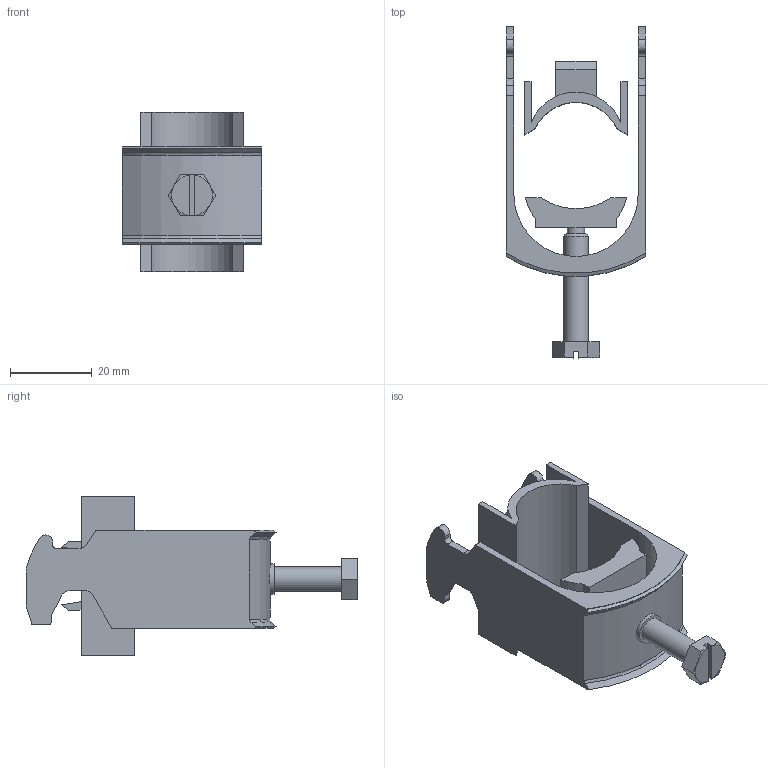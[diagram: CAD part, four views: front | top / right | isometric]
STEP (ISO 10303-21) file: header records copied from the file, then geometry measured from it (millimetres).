
FILE_DESCRIPTION (( 'STEP AP203' ), '1' );
FILE_NAME ('R5CABF30.STEP', '2024-11-19T06:40:33', ( '' ), ( '' ), 'SwSTEP 2.0', 'SolidWorks 2022', '' );
FILE_SCHEMA (( 'CONFIG_CONTROL_DESIGN' ));
Length unit declared in the file: millimetre
Products named in the file (4): Empty; R5CABF30; 3; Clamp 30
Assembly tree (2 placements, depth 2):
  Empty
  R5CABF30
    Clamp 30
    3
Bounding box: 34 x 81.17 x 39 mm (x, y, z)
Volume: 16294.7 mm3; surface area: 14056.3 mm2
Topology: 2 solids, 2 shells, 111 faces, 297 edges, 196 vertices
Faces by surface type: plane 65, cylinder 32, cone 12, torus 2
Full cylindrical faces by diameter (mm): 4.2 x1, 6 x2, 7.5 x1
Entity records: 3957 total; most frequent: CARTESIAN_POINT 827, ORIENTED_EDGE 580, DIRECTION 564, EDGE_CURVE 290, VERTEX_POINT 195, AXIS2_PLACEMENT_3D 190, VECTOR 184, LINE 184
